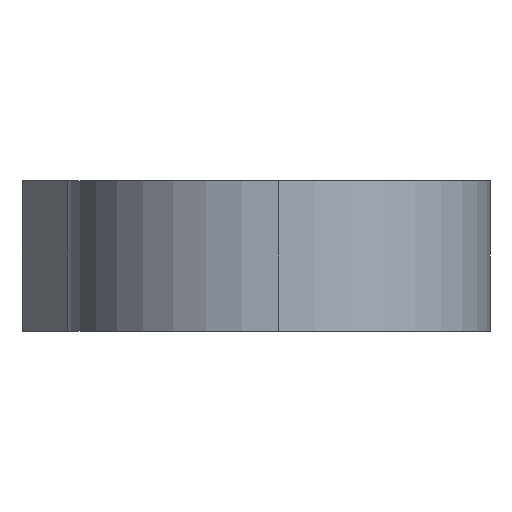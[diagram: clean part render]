
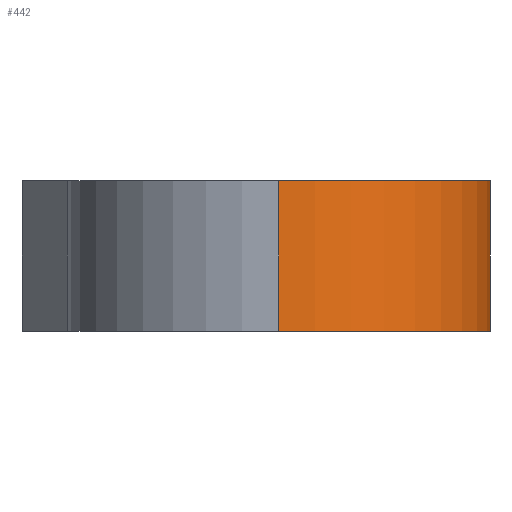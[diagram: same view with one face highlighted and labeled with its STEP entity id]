
A CAD part, left-side view. The second image highlights one B-rep face of the part: STEP entity #442.
In plain terms, the highlighted cylindrical face has radius 14 mm (diameter 28 mm), a partial arc.
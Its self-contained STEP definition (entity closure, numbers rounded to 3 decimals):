
#85 = AXIS2_PLACEMENT_3D ( 'NONE', #331, #500, #289 ) ;
#90 = CARTESIAN_POINT ( 'NONE',  ( -193.89, 0., 10. ) ) ;
#103 = CARTESIAN_POINT ( 'NONE',  ( -172.88, -12.119, 10. ) ) ;
#107 = EDGE_CURVE ( 'NONE', #204, #542, #389, .T. ) ;
#108 = VECTOR ( 'NONE', #139, 1000. ) ;
#119 = CARTESIAN_POINT ( 'NONE',  ( -193.89, 0., 0. ) ) ;
#137 = EDGE_LOOP ( 'NONE', ( #295, #432, #502, #322 ) ) ;
#139 = DIRECTION ( 'NONE',  ( 0., 0., -1. ) ) ;
#150 = VECTOR ( 'NONE', #316, 1000. ) ;
#156 = CYLINDRICAL_SURFACE ( 'NONE', #85, 14. ) ;
#165 = EDGE_CURVE ( 'NONE', #466, #425, #227, .T. ) ;
#178 = CARTESIAN_POINT ( 'NONE',  ( -172.88, -12.119, 10. ) ) ;
#181 = CIRCLE ( 'NONE', #458, 14. ) ;
#202 = DIRECTION ( 'NONE',  ( 1., 0., 0. ) ) ;
#204 = VERTEX_POINT ( 'NONE', #103 ) ;
#227 = LINE ( 'NONE', #482, #150 ) ;
#283 = CARTESIAN_POINT ( 'NONE',  ( -172.88, -12.119, 0. ) ) ;
#289 = DIRECTION ( 'NONE',  ( -1., 0., 0. ) ) ;
#295 = ORIENTED_EDGE ( 'NONE', *, *, #520, .F. ) ;
#316 = DIRECTION ( 'NONE',  ( 0., 0., -1. ) ) ;
#317 = DIRECTION ( 'NONE',  ( 1., 0., 0. ) ) ;
#322 = ORIENTED_EDGE ( 'NONE', *, *, #107, .F. ) ;
#331 = CARTESIAN_POINT ( 'NONE',  ( -179.89, 0., 10. ) ) ;
#383 = FACE_OUTER_BOUND ( 'NONE', #137, .T. ) ;
#389 = LINE ( 'NONE', #178, #108 ) ;
#411 = CARTESIAN_POINT ( 'NONE',  ( -179.89, 0., 0. ) ) ;
#416 = AXIS2_PLACEMENT_3D ( 'NONE', #411, #459, #202 ) ;
#425 = VERTEX_POINT ( 'NONE', #119 ) ;
#432 = ORIENTED_EDGE ( 'NONE', *, *, #165, .T. ) ;
#442 = ADVANCED_FACE ( 'NONE', ( #383 ), #156, .T. ) ;
#447 = EDGE_CURVE ( 'NONE', #425, #542, #467, .T. ) ;
#458 = AXIS2_PLACEMENT_3D ( 'NONE', #493, #530, #317 ) ;
#459 = DIRECTION ( 'NONE',  ( 0., 0., 1. ) ) ;
#466 = VERTEX_POINT ( 'NONE', #90 ) ;
#467 = CIRCLE ( 'NONE', #416, 14. ) ;
#482 = CARTESIAN_POINT ( 'NONE',  ( -193.89, 0., 10. ) ) ;
#493 = CARTESIAN_POINT ( 'NONE',  ( -179.89, 0., 10. ) ) ;
#500 = DIRECTION ( 'NONE',  ( 0., 0., -1. ) ) ;
#502 = ORIENTED_EDGE ( 'NONE', *, *, #447, .T. ) ;
#520 = EDGE_CURVE ( 'NONE', #466, #204, #181, .T. ) ;
#530 = DIRECTION ( 'NONE',  ( 0., 0., 1. ) ) ;
#542 = VERTEX_POINT ( 'NONE', #283 ) ;
